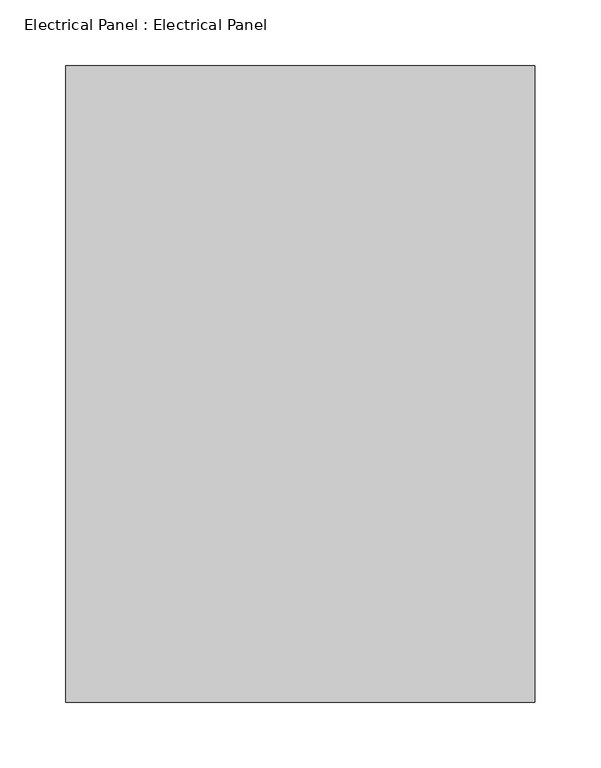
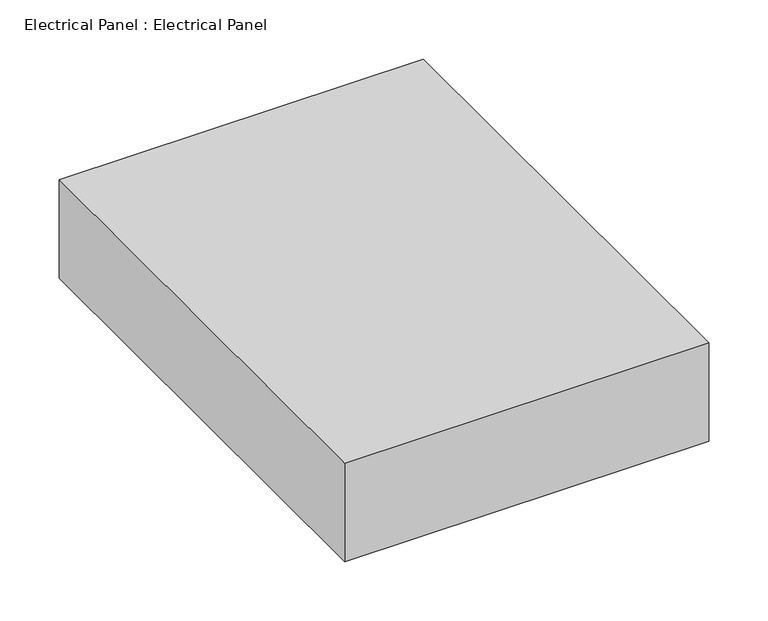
"""IFC4 building model written with IfcOpenShell, lengths in millimetres: proxy geometry, Electrical Panel : Electrical Panel."""

from ifc_helpers import new_model, si_unit, frame, origin, place, context, project, spatial, polyline, outline, extrude, source, transform, mapped, element, save


def electrical_panel_electrical_panel_b61275ab(model_context):
    return source(origin(), model_context, "Body", "SweptSolid", [
        extrude(outline(polyline([(177.8, 241.3), (177.8, -241.3), (-177.8, -241.3), (-177.8, 241.3), (177.8, 241.3)])), frame((0.0, 0.0, -76.2), z_axis=(0.0, 0.0, 1.0), x_axis=(1.0, 0.0, 0.0)), (0.0, 0.0, 1.0), 101.6),
    ])


if __name__ == "__main__":
    model = new_model("IFC4")
    model_context = context("Model", 3, world=origin())
    ifc_project = project(units=[si_unit("LENGTHUNIT", "METRE", prefix="MILLI")], contexts=[model_context])
    site = spatial("IfcSite", under=ifc_project)
    building = spatial("IfcBuilding", under=site)
    placement = place(None, origin())
    electrical_panel_electrical_panel_shape = electrical_panel_electrical_panel_b61275ab(model_context)
    element("IfcBuildingElementProxy", 1, Name="Electrical Panel : Electrical Panel", ObjectType="Electrical Panel : Electrical Panel", at=placement, inside=building, context=model_context, shape_type="MappedRepresentation", body=[
        mapped(electrical_panel_electrical_panel_shape, transform((0.0, 0.0, 0.0), x_axis=(1.0, 0.0, 0.0), y_axis=(0.0, 1.0, 0.0), z_axis=(0.0, 0.0, 1.0))),
    ])
    save(model, "model.ifc")
